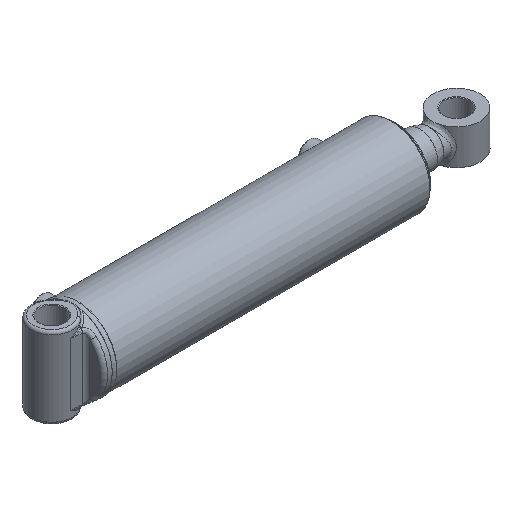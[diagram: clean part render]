
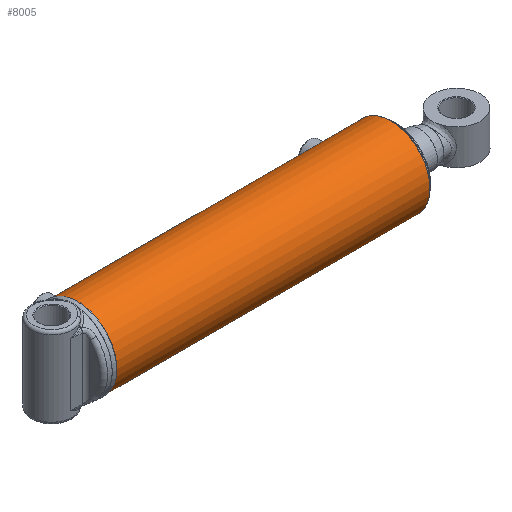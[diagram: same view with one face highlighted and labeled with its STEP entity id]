
A CAD part, isometric view. The second image highlights one B-rep face of the part: STEP entity #8005.
In plain terms, the highlighted cylindrical face has radius 49.212 mm (diameter 98.425 mm), a full revolution.
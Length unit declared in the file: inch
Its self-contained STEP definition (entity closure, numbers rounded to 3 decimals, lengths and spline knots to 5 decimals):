
#743=B_SPLINE_CURVE_WITH_KNOTS('',3,(#11893,#11894,#11895,#11896,#11897,
#11898,#11899,#11900,#11901,#11902),.UNSPECIFIED.,.F.,.F.,(4,2,2,2,4),(0.,
0.17952,0.35904,0.53855,0.71807),
 .UNSPECIFIED.);
#744=B_SPLINE_CURVE_WITH_KNOTS('',3,(#11903,#11904,#11905,#11906,#11907,
#11908,#11909,#11910,#11911,#11912,#11913,#11914,#11915,#11916,#11917,#11918,
#11919,#11920,#11921,#11922,#11923,#11924,#11925,#11926,#11927,#11928),
 .UNSPECIFIED.,.F.,.F.,(4,2,2,2,2,2,2,2,2,2,2,2,4),(0.71807,0.89759,
1.07711,1.25662,1.43614,1.61566,1.79518,
1.97469,2.15421,2.33373,2.51325,2.69276,
2.87228),.UNSPECIFIED.);
#745=B_SPLINE_CURVE_WITH_KNOTS('',3,(#11933,#11934,#11935,#11936,#11937,
#11938,#11939,#11940,#11941,#11942),.UNSPECIFIED.,.F.,.F.,(4,2,2,2,4),(0.,
0.17952,0.35904,0.53855,0.71807),
 .UNSPECIFIED.);
#746=B_SPLINE_CURVE_WITH_KNOTS('',3,(#11943,#11944,#11945,#11946,#11947,
#11948,#11949,#11950,#11951,#11952,#11953,#11954,#11955,#11956,#11957,#11958,
#11959,#11960,#11961,#11962,#11963,#11964,#11965,#11966,#11967,#11968),
 .UNSPECIFIED.,.F.,.F.,(4,2,2,2,2,2,2,2,2,2,2,2,4),(0.71807,0.89759,
1.07711,1.25662,1.43614,1.61566,1.79518,
1.97469,2.15421,2.33373,2.51325,2.69276,
2.87228),.UNSPECIFIED.);
#1052=FACE_BOUND('',#2574,.T.);
#1053=FACE_BOUND('',#2575,.T.);
#1334=LINE('',#11996,#1660);
#1660=VECTOR('',#9730,1.9375);
#1983=CYLINDRICAL_SURFACE('',#8759,1.9375);
#2077=FACE_OUTER_BOUND('',#2573,.T.);
#2573=EDGE_LOOP('',(#5643,#5644,#5645,#5646,#5647,#5648));
#2574=EDGE_LOOP('',(#5649,#5650));
#2575=EDGE_LOOP('',(#5651,#5652));
#3155=CIRCLE('',#8756,1.9375);
#3157=CIRCLE('',#8758,1.9375);
#3158=CIRCLE('',#8760,1.9375);
#3159=CIRCLE('',#8761,1.9375);
#3637=VERTEX_POINT('',#11890);
#3638=VERTEX_POINT('',#11892);
#3639=VERTEX_POINT('',#11930);
#3640=VERTEX_POINT('',#11932);
#3647=VERTEX_POINT('',#11989);
#3648=VERTEX_POINT('',#11990);
#3649=VERTEX_POINT('',#11995);
#3650=VERTEX_POINT('',#11997);
#4409=EDGE_CURVE('',#3638,#3637,#743,.T.);
#4410=EDGE_CURVE('',#3637,#3638,#744,.T.);
#4412=EDGE_CURVE('',#3640,#3639,#745,.T.);
#4413=EDGE_CURVE('',#3639,#3640,#746,.T.);
#4423=EDGE_CURVE('',#3647,#3648,#3155,.T.);
#4425=EDGE_CURVE('',#3648,#3647,#3157,.T.);
#4426=EDGE_CURVE('',#3647,#3649,#1334,.T.);
#4427=EDGE_CURVE('',#3650,#3649,#3158,.T.);
#4428=EDGE_CURVE('',#3649,#3650,#3159,.T.);
#5643=ORIENTED_EDGE('',*,*,#4423,.F.);
#5644=ORIENTED_EDGE('',*,*,#4426,.T.);
#5645=ORIENTED_EDGE('',*,*,#4427,.F.);
#5646=ORIENTED_EDGE('',*,*,#4428,.F.);
#5647=ORIENTED_EDGE('',*,*,#4426,.F.);
#5648=ORIENTED_EDGE('',*,*,#4425,.F.);
#5649=ORIENTED_EDGE('',*,*,#4409,.T.);
#5650=ORIENTED_EDGE('',*,*,#4410,.T.);
#5651=ORIENTED_EDGE('',*,*,#4412,.T.);
#5652=ORIENTED_EDGE('',*,*,#4413,.T.);
#8005=ADVANCED_FACE('',(#2077,#1052,#1053),#1983,.T.);
#8756=AXIS2_PLACEMENT_3D('',#11991,#9722,#9723);
#8758=AXIS2_PLACEMENT_3D('',#11993,#9726,#9727);
#8759=AXIS2_PLACEMENT_3D('',#11994,#9728,#9729);
#8760=AXIS2_PLACEMENT_3D('',#11998,#9731,#9732);
#8761=AXIS2_PLACEMENT_3D('',#11999,#9733,#9734);
#9722=DIRECTION('center_axis',(1.,0.,0.));
#9723=DIRECTION('ref_axis',(0.,-1.,0.));
#9726=DIRECTION('center_axis',(1.,0.,0.));
#9727=DIRECTION('ref_axis',(0.,-1.,0.));
#9728=DIRECTION('center_axis',(1.,0.,0.));
#9729=DIRECTION('ref_axis',(0.,-1.,0.));
#9730=DIRECTION('',(-1.,0.,0.));
#9731=DIRECTION('center_axis',(-1.,0.,0.));
#9732=DIRECTION('ref_axis',(0.,-1.,0.));
#9733=DIRECTION('center_axis',(-1.,0.,0.));
#9734=DIRECTION('ref_axis',(0.,-1.,0.));
#11890=CARTESIAN_POINT('',(0.7225,0.,1.9375));
#11892=CARTESIAN_POINT('',(0.91,-0.1875,1.92841));
#11893=CARTESIAN_POINT('Ctrl Pts',(0.91,-0.1875,1.92841));
#11894=CARTESIAN_POINT('Ctrl Pts',(0.88644,-0.1875,1.92841));
#11895=CARTESIAN_POINT('Ctrl Pts',(0.86132,-0.18279,
1.92888));
#11896=CARTESIAN_POINT('Ctrl Pts',(0.81513,-0.16365,
1.9306));
#11897=CARTESIAN_POINT('Ctrl Pts',(0.79406,-0.14922,
1.93182));
#11898=CARTESIAN_POINT('Ctrl Pts',(0.76078,-0.11594,
1.9341));
#11899=CARTESIAN_POINT('Ctrl Pts',(0.74635,-0.09487,
1.93531));
#11900=CARTESIAN_POINT('Ctrl Pts',(0.72721,-0.04868,
1.93703));
#11901=CARTESIAN_POINT('Ctrl Pts',(0.7225,-0.02356,1.9375));
#11902=CARTESIAN_POINT('Ctrl Pts',(0.7225,0.,1.9375));
#11903=CARTESIAN_POINT('Ctrl Pts',(0.7225,0.,1.9375));
#11904=CARTESIAN_POINT('Ctrl Pts',(0.7225,0.02356,1.9375));
#11905=CARTESIAN_POINT('Ctrl Pts',(0.72721,0.04868,
1.93703));
#11906=CARTESIAN_POINT('Ctrl Pts',(0.74635,0.09487,
1.93531));
#11907=CARTESIAN_POINT('Ctrl Pts',(0.76078,0.11594,
1.9341));
#11908=CARTESIAN_POINT('Ctrl Pts',(0.79406,0.14922,
1.93182));
#11909=CARTESIAN_POINT('Ctrl Pts',(0.81513,0.16365,
1.9306));
#11910=CARTESIAN_POINT('Ctrl Pts',(0.86132,0.18279,
1.92888));
#11911=CARTESIAN_POINT('Ctrl Pts',(0.88644,0.1875,1.92841));
#11912=CARTESIAN_POINT('Ctrl Pts',(0.93356,0.1875,1.92841));
#11913=CARTESIAN_POINT('Ctrl Pts',(0.95868,0.18279,
1.92888));
#11914=CARTESIAN_POINT('Ctrl Pts',(1.00487,0.16365,1.9306));
#11915=CARTESIAN_POINT('Ctrl Pts',(1.02594,0.14922,1.93182));
#11916=CARTESIAN_POINT('Ctrl Pts',(1.05922,0.11594,1.9341));
#11917=CARTESIAN_POINT('Ctrl Pts',(1.07365,0.09487,
1.93531));
#11918=CARTESIAN_POINT('Ctrl Pts',(1.09279,0.04868,
1.93703));
#11919=CARTESIAN_POINT('Ctrl Pts',(1.0975,0.02356,1.9375));
#11920=CARTESIAN_POINT('Ctrl Pts',(1.0975,-0.02356,1.9375));
#11921=CARTESIAN_POINT('Ctrl Pts',(1.09279,-0.04868,
1.93703));
#11922=CARTESIAN_POINT('Ctrl Pts',(1.07365,-0.09487,
1.93531));
#11923=CARTESIAN_POINT('Ctrl Pts',(1.05922,-0.11594,
1.9341));
#11924=CARTESIAN_POINT('Ctrl Pts',(1.02594,-0.14922,
1.93182));
#11925=CARTESIAN_POINT('Ctrl Pts',(1.00487,-0.16365,
1.9306));
#11926=CARTESIAN_POINT('Ctrl Pts',(0.95868,-0.18279,
1.92888));
#11927=CARTESIAN_POINT('Ctrl Pts',(0.93356,-0.1875,1.92841));
#11928=CARTESIAN_POINT('Ctrl Pts',(0.91,-0.1875,1.92841));
#11930=CARTESIAN_POINT('',(13.9425,0.,1.9375));
#11932=CARTESIAN_POINT('',(14.13,-0.1875,1.92841));
#11933=CARTESIAN_POINT('Ctrl Pts',(14.13,-0.1875,1.92841));
#11934=CARTESIAN_POINT('Ctrl Pts',(14.10644,-0.1875,
1.92841));
#11935=CARTESIAN_POINT('Ctrl Pts',(14.08132,-0.18279,
1.92888));
#11936=CARTESIAN_POINT('Ctrl Pts',(14.03513,-0.16365,
1.9306));
#11937=CARTESIAN_POINT('Ctrl Pts',(14.01406,-0.14922,1.93182));
#11938=CARTESIAN_POINT('Ctrl Pts',(13.98078,-0.11594,1.9341));
#11939=CARTESIAN_POINT('Ctrl Pts',(13.96635,-0.09487,
1.93531));
#11940=CARTESIAN_POINT('Ctrl Pts',(13.94721,-0.04868,
1.93703));
#11941=CARTESIAN_POINT('Ctrl Pts',(13.9425,-0.02356,1.9375));
#11942=CARTESIAN_POINT('Ctrl Pts',(13.9425,0.,1.9375));
#11943=CARTESIAN_POINT('Ctrl Pts',(13.9425,0.,1.9375));
#11944=CARTESIAN_POINT('Ctrl Pts',(13.9425,0.02356,1.9375));
#11945=CARTESIAN_POINT('Ctrl Pts',(13.94721,0.04868,
1.93703));
#11946=CARTESIAN_POINT('Ctrl Pts',(13.96635,0.09487,
1.93531));
#11947=CARTESIAN_POINT('Ctrl Pts',(13.98078,0.11594,1.9341));
#11948=CARTESIAN_POINT('Ctrl Pts',(14.01406,0.14922,1.93182));
#11949=CARTESIAN_POINT('Ctrl Pts',(14.03513,0.16365,1.9306));
#11950=CARTESIAN_POINT('Ctrl Pts',(14.08132,0.18279,1.92888));
#11951=CARTESIAN_POINT('Ctrl Pts',(14.10644,0.1875,1.92841));
#11952=CARTESIAN_POINT('Ctrl Pts',(14.15356,0.1875,1.92841));
#11953=CARTESIAN_POINT('Ctrl Pts',(14.17868,0.18279,1.92888));
#11954=CARTESIAN_POINT('Ctrl Pts',(14.22487,0.16365,1.9306));
#11955=CARTESIAN_POINT('Ctrl Pts',(14.24594,0.14922,1.93182));
#11956=CARTESIAN_POINT('Ctrl Pts',(14.27922,0.11594,1.9341));
#11957=CARTESIAN_POINT('Ctrl Pts',(14.29365,0.09487,
1.93531));
#11958=CARTESIAN_POINT('Ctrl Pts',(14.31279,0.04868,
1.93703));
#11959=CARTESIAN_POINT('Ctrl Pts',(14.3175,0.02356,1.9375));
#11960=CARTESIAN_POINT('Ctrl Pts',(14.3175,-0.02356,1.9375));
#11961=CARTESIAN_POINT('Ctrl Pts',(14.31279,-0.04868,
1.93703));
#11962=CARTESIAN_POINT('Ctrl Pts',(14.29365,-0.09487,
1.93531));
#11963=CARTESIAN_POINT('Ctrl Pts',(14.27922,-0.11594,1.9341));
#11964=CARTESIAN_POINT('Ctrl Pts',(14.24594,-0.14922,1.93182));
#11965=CARTESIAN_POINT('Ctrl Pts',(14.22487,-0.16365,
1.9306));
#11966=CARTESIAN_POINT('Ctrl Pts',(14.17868,-0.18279,
1.92888));
#11967=CARTESIAN_POINT('Ctrl Pts',(14.15356,-0.1875,
1.92841));
#11968=CARTESIAN_POINT('Ctrl Pts',(14.13,-0.1875,1.92841));
#11989=CARTESIAN_POINT('',(15.56,1.9375,0.));
#11990=CARTESIAN_POINT('',(15.56,0.,-1.9375));
#11991=CARTESIAN_POINT('Origin',(15.56,0.,0.));
#11993=CARTESIAN_POINT('Origin',(15.56,0.,0.));
#11994=CARTESIAN_POINT('Origin',(0.,0.,0.));
#11995=CARTESIAN_POINT('',(0.09382,1.9375,0.));
#11996=CARTESIAN_POINT('',(0.,1.9375,0.));
#11997=CARTESIAN_POINT('',(0.09382,0.,1.9375));
#11998=CARTESIAN_POINT('Origin',(0.09382,0.,0.));
#11999=CARTESIAN_POINT('Origin',(0.09382,0.,0.));
